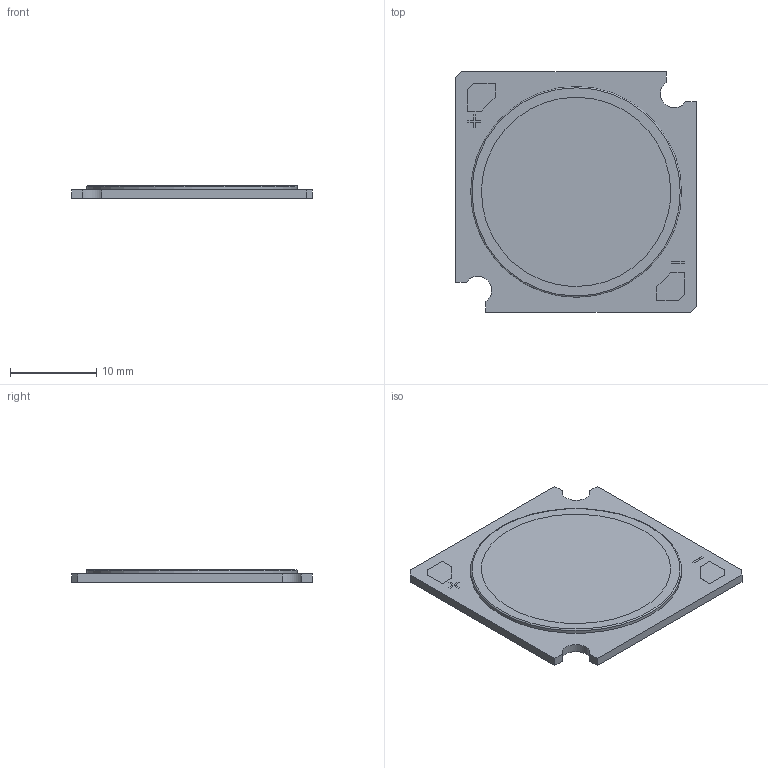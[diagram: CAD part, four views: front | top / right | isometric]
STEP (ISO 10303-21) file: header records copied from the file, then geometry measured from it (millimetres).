
FILE_DESCRIPTION(/* description */ (''),/* implementation_level */ '2;1');
FILE_NAME(/* name */ 'COB_2828.stp',/* time_stamp */ '2016-06-30T18:52:46+09:00',/* author */ (''),/* organization */ (''),/* preprocessor_version */ 'ST-DEVELOPER v15',/* originating_system */ 'SIEMENS PLM Software NX 8.5',/* authorisation */ '');
FILE_SCHEMA (('CONFIG_CONTROL_DESIGN'));
Length unit declared in the file: millimetre
Products named in the file (1): SLED-000008646_000
Bounding box: 28 x 28 x 1.5 mm (x, y, z)
Volume: 989.2 mm3; surface area: 1655.1 mm2
Topology: 1 solids, 1 shells, 50 faces, 126 edges, 84 vertices
Faces by surface type: plane 44, cylinder 5, torus 1
Full cylindrical faces by diameter (mm): 24.5 x1
Entity records: 1649 total; most frequent: CARTESIAN_POINT 571, ORIENTED_EDGE 248, DIRECTION 148, EDGE_CURVE 124, VERTEX_POINT 84, EDGE_LOOP 58, AXIS2_PLACEMENT_3D 54, ADVANCED_FACE 50
